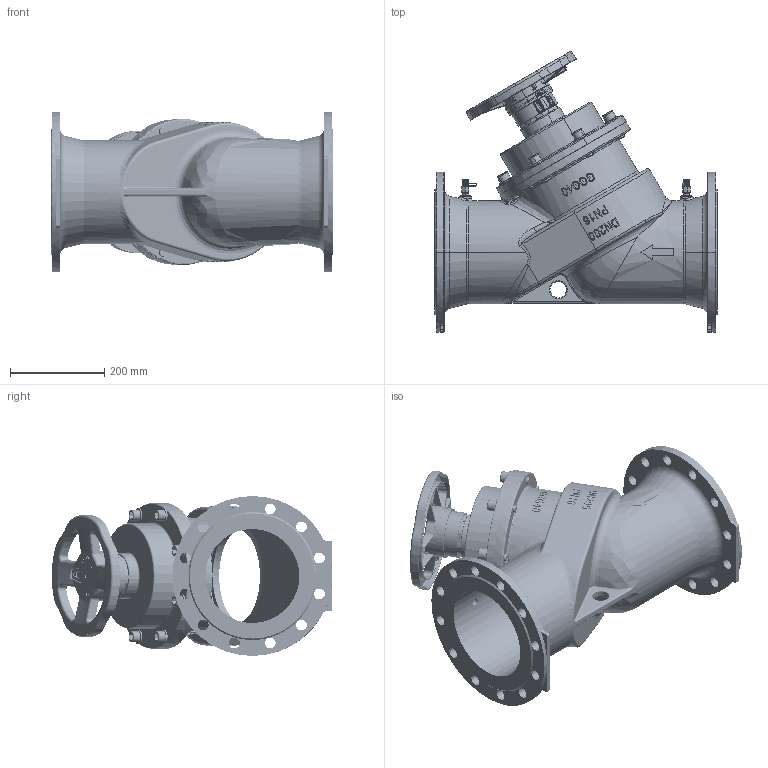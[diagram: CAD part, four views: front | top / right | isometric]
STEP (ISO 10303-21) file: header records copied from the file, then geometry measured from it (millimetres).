
FILE_DESCRIPTION (( 'STEP AP203' ), '1' );
FILE_NAME ('DN200平衡阀装配体.STEP', '2024-03-29T07:28:11', ( 'MicroSoft' ), ( 'MicroSoft' ), 'SwSTEP 2.0', 'SolidWorks 2024', '' );
FILE_SCHEMA (( 'CONFIG_CONTROL_DESIGN' ));
Length unit declared in the file: millimetre
Products named in the file (15): DN200平衡阀装配体; HW254--05-去除圆角; 零件1; 修改HW260-02双副本-数字居中; TEST  NOZZLE; DSSV200-0FP01-02平阀盖; 修改HW260-00-双副本; hexagon socket head cap screws gb1_GB_FASTENER_SCREWS_HSHCS M16X45-N; HW254-HXG32-08; HW260-06; HW260-01A; DN200平衡阀阀体; HW260-03; plain washers--product grade c gb_GB_FASTENER_WASHER_SMWC 16; M0030DN300阀轴压块
Assembly tree (29 placements, depth 3):
  DN200平衡阀装配体
    DN200平衡阀阀体
    DSSV200-0FP01-02平阀盖
    plain washers--product grade c gb_GB_FASTENER_WASHER_SMWC 16  x8
    hexagon socket head cap screws gb1_GB_FASTENER_SCREWS_HSHCS M16X45-N  x8
    M0030DN300阀轴压块
    TEST  NOZZLE  x2
    修改HW260-00-双副本
      HW260-01A
      HW260-03
      修改HW260-02双副本-数字居中
      HW260-06
      零件1
      HW254-HXG32-08
      HW254--05-去除圆角
Bounding box: 600 x 596.61 x 340 mm (x, y, z)
Volume: 11197969.7 mm3; surface area: 2083757.3 mm2
Topology: 43 solids, 43 shells, 6600 faces, 16454 edges, 10190 vertices
Faces by surface type: plane 2505, cylinder 1618, bspline 1371, torus 814, cone 158, sphere 134
Entity records: 288727 total; most frequent: CARTESIAN_POINT 150620, ORIENTED_EDGE 30230, DIRECTION 25595, EDGE_CURVE 15115, AXIS2_PLACEMENT_3D 9509, VERTEX_POINT 9461, EDGE_LOOP 6668, VECTOR 6577
